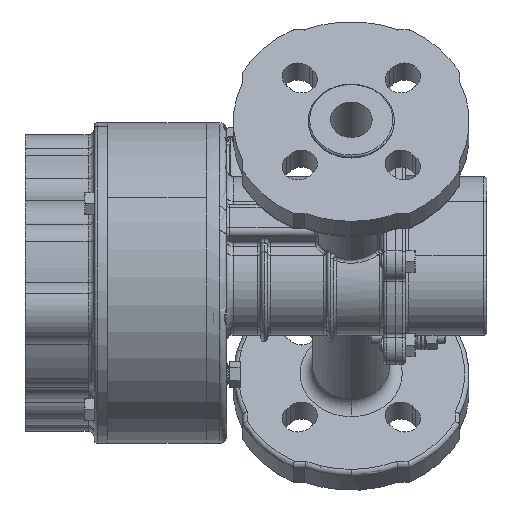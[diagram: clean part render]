
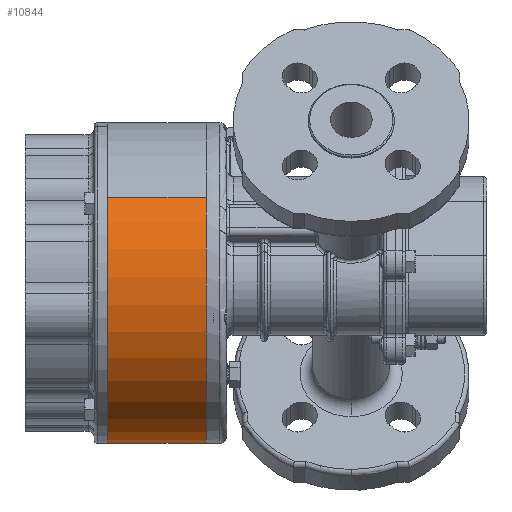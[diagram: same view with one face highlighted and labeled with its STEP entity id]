
A CAD part, left-side view. The second image highlights one B-rep face of the part: STEP entity #10844.
In plain terms, the highlighted cylindrical face has radius 79.756 mm (diameter 159.512 mm), a partial arc.
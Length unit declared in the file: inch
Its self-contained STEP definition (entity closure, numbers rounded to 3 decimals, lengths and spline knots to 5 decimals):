
#514 = EDGE_LOOP ( 'NONE', ( #39083, #21213, #19725, #13979 ) ) ;
#860 = EDGE_CURVE ( 'NONE', #20192, #34060, #21294, .T. ) ;
#1974 = CARTESIAN_POINT ( 'NONE',  ( 0., -0.9685, 3.14 ) ) ;
#2466 = EDGE_CURVE ( 'NONE', #33225, #13671, #32131, .T. ) ;
#4643 = DIRECTION ( 'NONE',  ( 0., 1., 0. ) ) ;
#4738 = EDGE_CURVE ( 'NONE', #34060, #13671, #15825, .T. ) ;
#5522 = CARTESIAN_POINT ( 'NONE',  ( 0., -0.9685, 0. ) ) ;
#6029 = CYLINDRICAL_SURFACE ( 'NONE', #19988, 3.14 ) ;
#6479 = CARTESIAN_POINT ( 'NONE',  ( 0., 0.9685, -3.14 ) ) ;
#8419 = DIRECTION ( 'NONE',  ( 0., 1., 0. ) ) ;
#9210 = DIRECTION ( 'NONE',  ( 0., 1., 0. ) ) ;
#9613 = DIRECTION ( 'NONE',  ( 0., 0., 1. ) ) ;
#9989 = VECTOR ( 'NONE', #8419, 39.37008 ) ;
#10844 = ADVANCED_FACE ( 'NONE', ( #27051 ), #6029, .T. ) ;
#11888 = CARTESIAN_POINT ( 'NONE',  ( 0., -0.9685, -3.14 ) ) ;
#11951 = VECTOR ( 'NONE', #4643, 39.37008 ) ;
#13173 = DIRECTION ( 'NONE',  ( 0., 0., 1. ) ) ;
#13315 = CARTESIAN_POINT ( 'NONE',  ( 0., 0.9685, 0. ) ) ;
#13671 = VERTEX_POINT ( 'NONE', #6479 ) ;
#13979 = ORIENTED_EDGE ( 'NONE', *, *, #30625, .F. ) ;
#15825 = LINE ( 'NONE', #11888, #9989 ) ;
#18347 = AXIS2_PLACEMENT_3D ( 'NONE', #5522, #9210, #19875 ) ;
#18865 = AXIS2_PLACEMENT_3D ( 'NONE', #13315, #37807, #9613 ) ;
#19725 = ORIENTED_EDGE ( 'NONE', *, *, #2466, .F. ) ;
#19875 = DIRECTION ( 'NONE',  ( 0., 0., 1. ) ) ;
#19988 = AXIS2_PLACEMENT_3D ( 'NONE', #44563, #20142, #13173 ) ;
#20142 = DIRECTION ( 'NONE',  ( 0., 1., 0. ) ) ;
#20192 = VERTEX_POINT ( 'NONE', #1974 ) ;
#21213 = ORIENTED_EDGE ( 'NONE', *, *, #4738, .T. ) ;
#21294 = CIRCLE ( 'NONE', #18347, 3.14 ) ;
#23271 = CARTESIAN_POINT ( 'NONE',  ( 0., -0.9685, -3.14 ) ) ;
#27051 = FACE_OUTER_BOUND ( 'NONE', #514, .T. ) ;
#30625 = EDGE_CURVE ( 'NONE', #20192, #33225, #42502, .T. ) ;
#32131 = CIRCLE ( 'NONE', #18865, 3.14 ) ;
#33225 = VERTEX_POINT ( 'NONE', #45259 ) ;
#34060 = VERTEX_POINT ( 'NONE', #23271 ) ;
#37807 = DIRECTION ( 'NONE',  ( 0., 1., 0. ) ) ;
#39083 = ORIENTED_EDGE ( 'NONE', *, *, #860, .T. ) ;
#42502 = LINE ( 'NONE', #43190, #11951 ) ;
#43190 = CARTESIAN_POINT ( 'NONE',  ( 0., -0.9685, 3.14 ) ) ;
#44563 = CARTESIAN_POINT ( 'NONE',  ( 0., -0.9685, 0. ) ) ;
#45259 = CARTESIAN_POINT ( 'NONE',  ( 0., 0.9685, 3.14 ) ) ;
